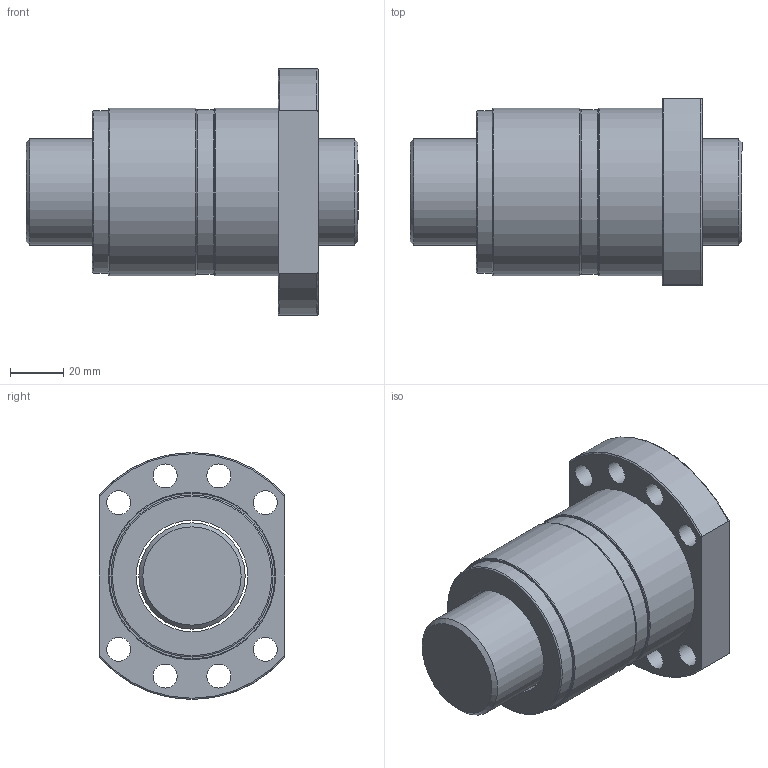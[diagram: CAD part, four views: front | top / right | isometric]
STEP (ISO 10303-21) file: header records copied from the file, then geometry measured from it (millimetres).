
FILE_DESCRIPTION(/* description */ (''),/* implementation_level */ '2;1');
FILE_NAME(/* name */ 'DFS4005',/* time_stamp */ '2007-10-26T13:47:17+08:00',/* author */ (''),/* organization */ (''),/* preprocessor_version */ 'ST-DEVELOPER v9',/* originating_system */ 'UGS - NX 3.0',/* authorisation */ '');
FILE_SCHEMA (('CONFIG_CONTROL_DESIGN'));
Length unit declared in the file: millimetre
Products named in the file (1): jaso15A4i32v
Bounding box: 125 x 70 x 93 mm (x, y, z)
Volume: 334012.7 mm3; surface area: 73406.8 mm2
Topology: 6 solids, 6 shells, 51 faces, 102 edges, 65 vertices
Faces by surface type: cylinder 22, plane 16, torus 11, cone 2
Full cylindrical faces by diameter (mm): 9 x8, 40 x1, 42 x5, 61 x2, 62.105 x1, 63 x3
Entity records: 1452 total; most frequent: CARTESIAN_POINT 334, DIRECTION 226, ORIENTED_EDGE 146, AXIS2_PLACEMENT_3D 109, EDGE_LOOP 108, FACE_BOUND 84, EDGE_CURVE 73, VERTEX_POINT 65
